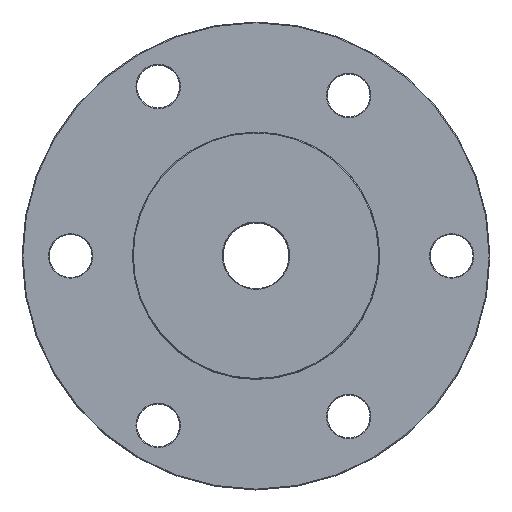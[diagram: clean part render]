
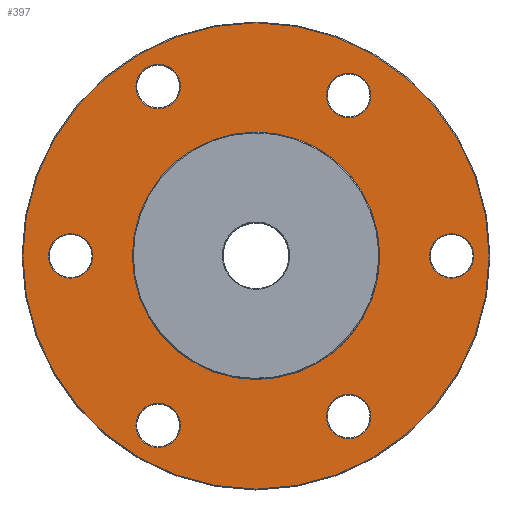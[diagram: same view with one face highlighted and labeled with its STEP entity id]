
A CAD part, top view. The second image highlights one B-rep face of the part: STEP entity #397.
In plain terms, the highlighted planar face has unit normal (0, 0, 1).
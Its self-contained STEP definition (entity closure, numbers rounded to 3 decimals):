
#79=CARTESIAN_POINT('',(15.,0.,6.));
#80=VERTEX_POINT('',#79);
#87=CARTESIAN_POINT('',(0.,0.,6.));
#88=DIRECTION('',(1.,0.,0.));
#89=DIRECTION('',(0.,0.,1.));
#90=AXIS2_PLACEMENT_3D('',#87,#89,#88);
#91=CIRCLE('',#90,15.);
#92=EDGE_CURVE('',#80,#80,#91,.T.);
#312=CARTESIAN_POINT('',(-7.61,0.,6.));
#313=DIRECTION('',(1.,0.,0.));
#314=DIRECTION('',(0.,0.,1.));
#315=AXIS2_PLACEMENT_3D('',#312,#314,#313);
#316=PLANE('',#315);
#317=CARTESIAN_POINT('',(28.3,0.,6.));
#318=VERTEX_POINT('',#317);
#319=CARTESIAN_POINT('',(0.,0.,6.));
#320=DIRECTION('',(1.,0.,0.));
#321=DIRECTION('',(0.,0.,1.));
#322=AXIS2_PLACEMENT_3D('',#319,#321,#320);
#323=CIRCLE('',#322,28.3);
#324=EDGE_CURVE('',#318,#318,#323,.T.);
#325=ORIENTED_EDGE('',*,*,#324,.T.);
#326=EDGE_LOOP('',(#325));
#327=FACE_OUTER_BOUND('',#326,.T.);
#328=ORIENTED_EDGE('',*,*,#92,.F.);
#329=EDGE_LOOP('',(#328));
#330=FACE_BOUND('',#329,.T.);
#331=CARTESIAN_POINT('',(13.95,-19.486,6.));
#332=VERTEX_POINT('',#331);
#333=CARTESIAN_POINT('',(11.25,-19.486,6.));
#334=DIRECTION('',(1.,0.,0.));
#335=DIRECTION('',(0.,0.,-1.));
#336=AXIS2_PLACEMENT_3D('',#333,#335,#334);
#337=CIRCLE('',#336,2.7);
#338=EDGE_CURVE('',#332,#332,#337,.T.);
#339=ORIENTED_EDGE('',*,*,#338,.T.);
#340=EDGE_LOOP('',(#339));
#341=FACE_BOUND('',#340,.T.);
#342=CARTESIAN_POINT('',(13.95,19.486,6.));
#343=VERTEX_POINT('',#342);
#344=CARTESIAN_POINT('',(11.25,19.486,6.));
#345=DIRECTION('',(1.,0.,0.));
#346=DIRECTION('',(0.,0.,-1.));
#347=AXIS2_PLACEMENT_3D('',#344,#346,#345);
#348=CIRCLE('',#347,2.7);
#349=EDGE_CURVE('',#343,#343,#348,.T.);
#350=ORIENTED_EDGE('',*,*,#349,.T.);
#351=EDGE_LOOP('',(#350));
#352=FACE_BOUND('',#351,.T.);
#353=CARTESIAN_POINT('',(26.45,0.,6.));
#354=VERTEX_POINT('',#353);
#355=CARTESIAN_POINT('',(23.75,0.,6.));
#356=DIRECTION('',(1.,0.,0.));
#357=DIRECTION('',(0.,0.,-1.));
#358=AXIS2_PLACEMENT_3D('',#355,#357,#356);
#359=CIRCLE('',#358,2.7);
#360=EDGE_CURVE('',#354,#354,#359,.T.);
#361=ORIENTED_EDGE('',*,*,#360,.T.);
#362=EDGE_LOOP('',(#361));
#363=FACE_BOUND('',#362,.T.);
#364=CARTESIAN_POINT('',(-9.175,-20.568,6.));
#365=VERTEX_POINT('',#364);
#366=CARTESIAN_POINT('',(-11.875,-20.568,6.));
#367=DIRECTION('',(1.,0.,0.));
#368=DIRECTION('',(0.,0.,-1.));
#369=AXIS2_PLACEMENT_3D('',#366,#368,#367);
#370=CIRCLE('',#369,2.7);
#371=EDGE_CURVE('',#365,#365,#370,.T.);
#372=ORIENTED_EDGE('',*,*,#371,.T.);
#373=EDGE_LOOP('',(#372));
#374=FACE_BOUND('',#373,.T.);
#375=CARTESIAN_POINT('',(-9.175,20.568,6.));
#376=VERTEX_POINT('',#375);
#377=CARTESIAN_POINT('',(-11.875,20.568,6.));
#378=DIRECTION('',(1.,0.,0.));
#379=DIRECTION('',(0.,0.,-1.));
#380=AXIS2_PLACEMENT_3D('',#377,#379,#378);
#381=CIRCLE('',#380,2.7);
#382=EDGE_CURVE('',#376,#376,#381,.T.);
#383=ORIENTED_EDGE('',*,*,#382,.T.);
#384=EDGE_LOOP('',(#383));
#385=FACE_BOUND('',#384,.T.);
#386=CARTESIAN_POINT('',(-19.8,0.,6.));
#387=VERTEX_POINT('',#386);
#388=CARTESIAN_POINT('',(-22.5,0.,6.));
#389=DIRECTION('',(1.,0.,0.));
#390=DIRECTION('',(0.,0.,-1.));
#391=AXIS2_PLACEMENT_3D('',#388,#390,#389);
#392=CIRCLE('',#391,2.7);
#393=EDGE_CURVE('',#387,#387,#392,.T.);
#394=ORIENTED_EDGE('',*,*,#393,.T.);
#395=EDGE_LOOP('',(#394));
#396=FACE_BOUND('',#395,.T.);
#397=ADVANCED_FACE('',(#327,#330,#341,#352,#363,#374,#385,#396),#316,.T.);
